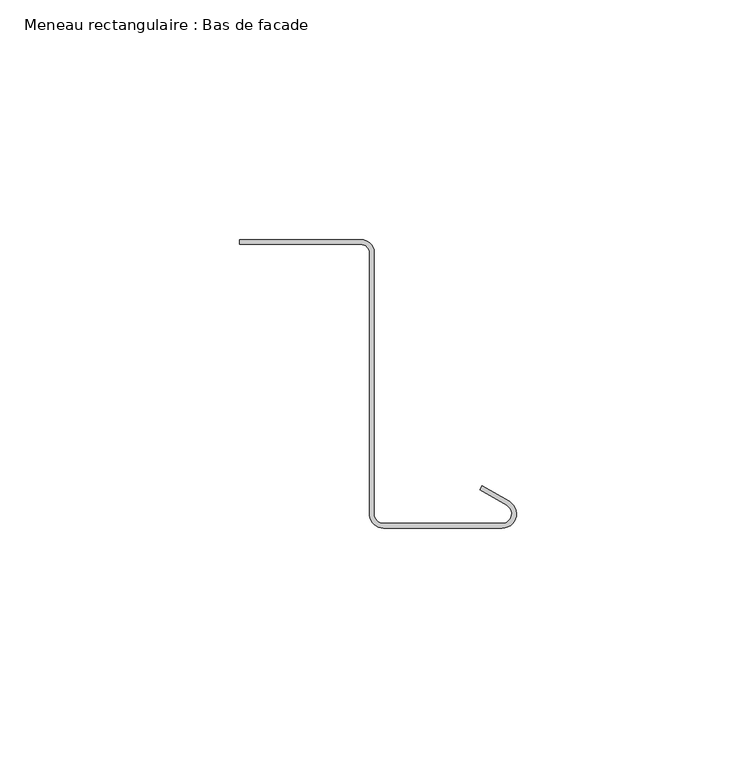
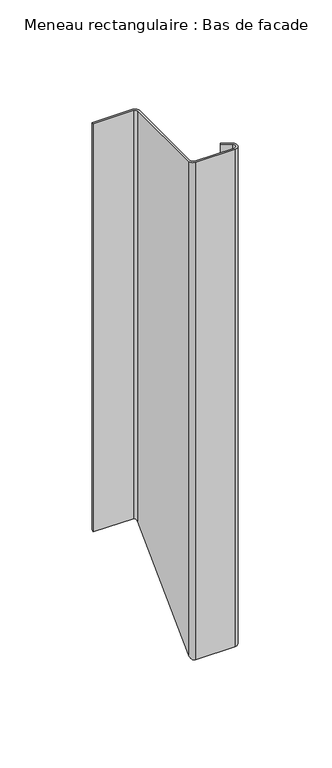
"""IFC4 building model written with IfcOpenShell, lengths in millimetres: member geometry, Meneau rectangulaire : Bas de facade."""

from ifc_helpers import new_model, si_unit, frame, origin, place, context, project, spatial, polyline, circle_curve, ellipse_curve, source, transform, mapped, element, save
from ifc_brep_helpers import plane_surface, cylinder_surface, revolved_surface, advanced_brep


def meneau_rectangulaire_bas_de_facade_afe9429f(model_context):
    return source(origin(), model_context, "Body", "AdvancedBrep", [
        advanced_brep(
        [(-32.4584179, 2.9588923, 0.0), (-57.8548383, 2.9588923, 0.0), (-57.8548383, 1.9588923, 0.0), (-32.4584179, 1.9588923, 0.0), (-30.7239521, 0.4415475, 0.0), (-30.7239521, -54.522067, 0.0), (-27.735368, -57.2605998, 0.0), (-3.0, -57.2605998, 0.0), (-1.5, -51.6625235, 0.0), (-7.1638061, -48.3925235, 0.0), (-7.6638061, -49.258549, 0.0), (-2.0, -52.528549, 0.0), (-3.0, -56.2605998, 0.0), (-27.735368, -56.2605998, 0.0), (-29.7143802, -54.5495817, 0.0), (-29.7143802, 0.3898824, 0.0), (-32.4584179, 2.9588923, -269.13563), (-57.8548383, 2.9588923, -269.13563), (-57.8548383, 1.9588923, -270.13563), (-32.4584179, 1.9588923, -270.13563), (-30.7239521, 0.4415475, -271.6529748), (-30.7239521, -54.522067, -326.6165893), (-27.735368, -57.2605998, -329.3551221), (-3.0, -57.2605998, -329.3551221), (-1.5, -51.6625235, -323.7570458), (-7.1638061, -48.3925235, -320.4870458), (-7.6638061, -49.258549, -321.3530712), (-2.0, -52.528549, -324.6230712), (-3.0, -56.2605998, -328.3551221), (-27.735368, -56.2605998, -328.3551221), (-29.7143802, -54.5495817, -326.644104), (-29.7143802, 0.3898824, -271.7046399)],
        [
            (0, 1),
            (1, 2),
            (2, 3),
            (3, 4, circle_curve(frame((-32.4584179, 0.2088923, 0.0), z_axis=(0.0, 0.0, -1.0), x_axis=(0.0, 1.0, 0.0)), 1.75)),
            (4, 5),
            (5, 6, circle_curve(frame((-27.735368, -54.2605998, 0.0), z_axis=(0.0, 0.0, 1.0), x_axis=(-0.9961946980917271, -0.08715574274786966, 0.0)), 3.0)),
            (6, 7),
            (7, 8, circle_curve(frame((-3.0, -54.2605998, 0.0), z_axis=(0.0, 0.0, 1.0), x_axis=(0.0, -1.0, 0.0)), 3.0)),
            (8, 9),
            (9, 10),
            (10, 11),
            (11, 12, circle_curve(frame((-3.0, -54.2605998, 0.0), z_axis=(0.0, 0.0, -1.0), x_axis=(0.0, -1.0, 0.0)), 2.0)),
            (12, 13),
            (13, 14, circle_curve(frame((-27.735368, -54.2605998, 0.0), z_axis=(0.0, 0.0, -1.0), x_axis=(-0.9961946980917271, -0.08715574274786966, 0.0)), 2.0)),
            (14, 15),
            (15, 0, circle_curve(frame((-32.4584179, 0.2088923, 0.0), z_axis=(0.0, 0.0, 1.0), x_axis=(0.0, 1.0, 0.0)), 2.75)),
            (0, 16),
            (16, 17),
            (17, 1),
            (17, 18),
            (18, 2),
            (18, 19),
            (19, 3),
            (19, 20, ellipse_curve(frame((-32.4584179, 0.2088923, -271.88563), z_axis=(0.0, 0.7071067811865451, -0.70710678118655), x_axis=(0.0, -0.70710678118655, -0.7071067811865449)), 2.4748737, 1.75)),
            (20, 4),
            (20, 21),
            (21, 5),
            (21, 22, ellipse_curve(frame((-27.735368, -54.2605998, -326.3551221), z_axis=(0.0, -0.7071067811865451, 0.70710678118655), x_axis=(0.0, 0.70710678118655, 0.7071067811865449)), 4.2426407, 3.0)),
            (22, 6),
            (22, 23),
            (23, 7),
            (23, 24, ellipse_curve(frame((-3.0, -54.2605998, -326.3551221), z_axis=(0.0, -0.7071067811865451, 0.70710678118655), x_axis=(0.0, 0.70710678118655, 0.7071067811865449)), 4.2426407, 3.0)),
            (24, 8),
            (24, 25),
            (25, 9),
            (25, 26),
            (26, 10),
            (26, 27),
            (27, 11),
            (27, 28, ellipse_curve(frame((-3.0, -54.2605998, -326.3551221), z_axis=(0.0, 0.7071067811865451, -0.70710678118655), x_axis=(0.0, -0.70710678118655, -0.7071067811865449)), 2.8284271, 2.0)),
            (28, 12),
            (28, 29),
            (29, 13),
            (29, 30, ellipse_curve(frame((-27.735368, -54.2605998, -326.3551221), z_axis=(0.0, 0.7071067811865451, -0.70710678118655), x_axis=(0.0, -0.70710678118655, -0.7071067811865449)), 2.8284271, 2.0)),
            (30, 14),
            (30, 31),
            (31, 15),
            (31, 16, ellipse_curve(frame((-32.4584179, 0.2088923, -271.88563), z_axis=(0.0, -0.7071067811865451, 0.70710678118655), x_axis=(0.0, 0.70710678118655, 0.7071067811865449)), 3.8890873, 2.75)),
        ],
        [
            plane_surface(frame((0.0, -63.8351035, 0.0), z_axis=(0.0, 0.0, 1.0), x_axis=(-1.0, 0.0, 0.0))),
            plane_surface(frame((-32.4584179, 2.9588923, 0.0), z_axis=(0.0, 1.0, 0.0), x_axis=(0.0, 0.0, -1.0))),
            plane_surface(frame((-57.8548383, 2.9588923, 0.0), z_axis=(-1.0, 0.0, 0.0), x_axis=(0.0, 0.0, -1.0))),
            plane_surface(frame((-57.8548383, 1.9588923, 0.0), z_axis=(0.0, -1.0, 0.0), x_axis=(0.0, 0.0, -1.0))),
            revolved_surface(polyline([(-32.4584179, 1.9588923, -273.63562997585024), (-32.4584179, 1.9588923, 0.0)]), (-32.4584179, 0.2088923, 0.0), (0.0, 0.0, -1.0)),
            plane_surface(frame((-30.7239521, 0.4415475, 0.0), z_axis=(-1.0, 0.0, 0.0), x_axis=(0.0, 0.0, -1.0))),
            cylinder_surface(frame((-27.735368, -54.2605998, 0.0), z_axis=(0.0, 0.0, 1.0000000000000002), x_axis=(-0.9961946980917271, -0.08715574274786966, 0.0)), 3.0),
            plane_surface(frame((-27.735368, -57.2605998, 0.0), z_axis=(0.0, -1.0, 0.0), x_axis=(0.0, 0.0, -1.0))),
            cylinder_surface(frame((-3.0, -54.2605998, 0.0), z_axis=(0.0, 0.0, 1.0), x_axis=(0.0, -1.0, 0.0)), 3.0),
            plane_surface(frame((-1.5, -51.6625235, 0.0), z_axis=(0.5000000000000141, 0.8660254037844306, 0.0), x_axis=(0.0, 0.0, -1.0))),
            plane_surface(frame((-7.1638061, -48.3925235, 0.0), z_axis=(-0.8660254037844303, 0.5000000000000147, 0.0), x_axis=(0.0, 0.0, -1.0))),
            plane_surface(frame((-7.6638061, -49.258549, 0.0), z_axis=(-0.500000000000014, -0.8660254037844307, 0.0), x_axis=(0.0, 0.0, -1.0))),
            revolved_surface(polyline([(-3.0, -56.2605998, -328.3551221), (-3.0, -56.2605998, 0.0)]), (-3.0, -54.2605998, 0.0), (0.0, 0.0, -1.0)),
            plane_surface(frame((-3.0, -56.2605998, 0.0), z_axis=(0.0, 1.0, 0.0), x_axis=(0.0, 0.0, -1.0))),
            revolved_surface(polyline([(-29.727757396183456, -54.434911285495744, -328.35512210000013), (-29.727757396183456, -54.434911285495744, 0.0)]), (-27.735368, -54.2605998, 0.0), (0.0, 0.0, -1.0000000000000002)),
            plane_surface(frame((-29.7143802, -54.5495817, 0.0), z_axis=(1.0, 0.0, 0.0), x_axis=(0.0, 0.0, -1.0))),
            cylinder_surface(frame((-32.4584179, 0.2088923, 0.0), z_axis=(0.0, 0.0, 1.0), x_axis=(0.0, 1.0, 0.0)), 2.75),
            plane_surface(frame((-304.8, 0.0, -272.0945223), z_axis=(0.0, 0.7071067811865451, -0.70710678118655), x_axis=(0.0, 0.70710678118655, 0.7071067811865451))),
        ],
        [
            (0, [[1, 2, 3, 4, 5, 6, 7, 8, 9, 10, 11, 12, 13, 14, 15, 16]]),
            (1, [[-1, 17, 18, 19]]),
            (2, [[-2, -19, 20, 21]]),
            (3, [[-3, -21, 22, 23]]),
            (4, [[-4, -23, 24, 25]]),
            (5, [[-5, -25, 26, 27]]),
            (6, [[-6, -27, 28, 29]]),
            (7, [[-7, -29, 30, 31]]),
            (8, [[-8, -31, 32, 33]]),
            (9, [[-9, -33, 34, 35]]),
            (10, [[-10, -35, 36, 37]]),
            (11, [[-11, -37, 38, 39]]),
            (12, [[-12, -39, 40, 41]]),
            (13, [[-13, -41, 42, 43]]),
            (14, [[-14, -43, 44, 45]]),
            (15, [[-15, -45, 46, 47]]),
            (16, [[-16, -47, 48, -17]]),
            (17, [[-48, -46, -44, -42, -40, -38, -36, -34, -32, -30, -28, -26, -24, -22, -20, -18]]),
        ],
    ),
    ])


if __name__ == "__main__":
    model = new_model("IFC4")
    model_context = context("Model", 3, world=origin())
    ifc_project = project(units=[si_unit("LENGTHUNIT", "METRE", prefix="MILLI")], contexts=[model_context])
    site = spatial("IfcSite", under=ifc_project)
    building = spatial("IfcBuilding", under=site)
    placement = place(None, origin())
    meneau_rectangulaire_bas_de_facade_shape = meneau_rectangulaire_bas_de_facade_afe9429f(model_context)
    element("IfcMember", 1, ObjectType="Meneau rectangulaire : Bas de facade", at=placement, inside=building, context=model_context, shape_type="MappedRepresentation", body=[
        mapped(meneau_rectangulaire_bas_de_facade_shape, transform((0.0, 0.0, 0.0), x_axis=(1.0, 0.0, 0.0), y_axis=(0.0, 1.0, 0.0), z_axis=(0.0, 0.0, 1.0))),
    ])
    save(model, "model.ifc")
